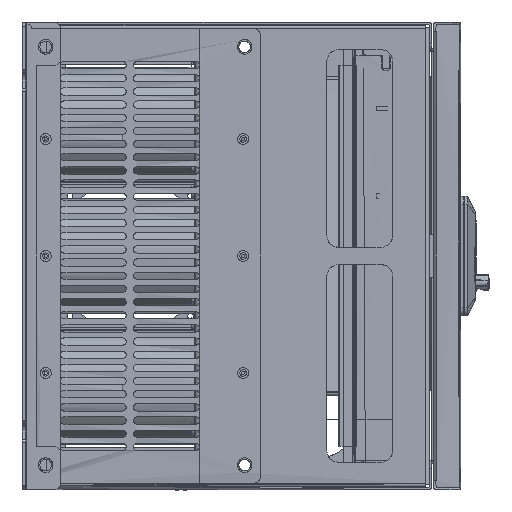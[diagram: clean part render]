
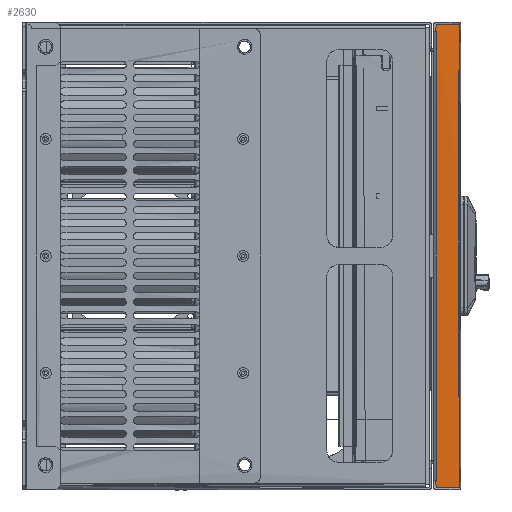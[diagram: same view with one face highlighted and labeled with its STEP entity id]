
A CAD part, front view. The second image highlights one B-rep face of the part: STEP entity #2630.
In plain terms, the highlighted planar face has unit normal (0, -1, 0).
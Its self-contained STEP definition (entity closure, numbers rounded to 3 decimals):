
#227 = CARTESIAN_POINT ( 'NONE',  ( 158., -291.2, -158.3 ) ) ;
#348 = CARTESIAN_POINT ( 'NONE',  ( 143.4, -291.2, 51.1 ) ) ;
#683 = VERTEX_POINT ( 'NONE', #12583 ) ;
#1040 = CARTESIAN_POINT ( 'NONE',  ( 143.2, -291.2, -153.3 ) ) ;
#1496 = ORIENTED_EDGE ( 'NONE', *, *, #131049, .T. ) ;
#1663 = CARTESIAN_POINT ( 'NONE',  ( 142.8, -291.2, -153.3 ) ) ;
#2140 = CARTESIAN_POINT ( 'NONE',  ( 142.606, -291.18, -153.649 ) ) ;
#2399 = CARTESIAN_POINT ( 'NONE',  ( 142.8, -291.2, -158.3 ) ) ;
#2630 = ADVANCED_FACE ( 'NONE', ( #88013 ), #63197, .T. ) ;
#4354 = VERTEX_POINT ( 'NONE', #140625 ) ;
#6026 = EDGE_CURVE ( 'NONE', #59364, #6629, #103118, .T. ) ;
#6629 = VERTEX_POINT ( 'NONE', #2140 ) ;
#8450 = ORIENTED_EDGE ( 'NONE', *, *, #48650, .F. ) ;
#11442 = CARTESIAN_POINT ( 'NONE',  ( 143., -291.2, 153.3 ) ) ;
#12168 = CARTESIAN_POINT ( 'NONE',  ( 143.4, -291.2, 153.3 ) ) ;
#12583 = CARTESIAN_POINT ( 'NONE',  ( 143.4, -291.2, 153.3 ) ) ;
#17996 = DIRECTION ( 'NONE',  ( 0., -1., 0. ) ) ;
#20319 = ORIENTED_EDGE ( 'NONE', *, *, #6026, .T. ) ;
#23582 = CARTESIAN_POINT ( 'NONE',  ( 143., -291.2, -153.3 ) ) ;
#24210 = CARTESIAN_POINT ( 'NONE',  ( 142.8, -291.2, -156.633 ) ) ;
#24374 = CARTESIAN_POINT ( 'NONE',  ( 143.4, -291.2, -51.1 ) ) ;
#25291 = ORIENTED_EDGE ( 'NONE', *, *, #115989, .F. ) ;
#26977 = CARTESIAN_POINT ( 'NONE',  ( 142.8, -291.2, 158.3 ) ) ;
#27760 = B_SPLINE_CURVE_WITH_KNOTS ( 'NONE', 3,
 ( #68713, #11442, #103232, #12168 ),
 .UNSPECIFIED., .F., .F.,
 ( 4, 4 ),
 ( 0., 1. ),
 .UNSPECIFIED. ) ;
#31409 = B_SPLINE_CURVE_WITH_KNOTS ( 'NONE', 3,
 ( #92872, #348, #24374, #83078 ),
 .UNSPECIFIED., .F., .F.,
 ( 4, 4 ),
 ( 0., 1. ),
 .UNSPECIFIED. ) ;
#34521 = CARTESIAN_POINT ( 'NONE',  ( 142.8, -291.2, 158.3 ) ) ;
#37086 = CARTESIAN_POINT ( 'NONE',  ( 142.8, -291.2, -154.967 ) ) ;
#39079 = CARTESIAN_POINT ( 'NONE',  ( 147.867, -291.2, 158.3 ) ) ;
#41438 = DIRECTION ( 'NONE',  ( 0., 0., -1. ) ) ;
#41893 = VERTEX_POINT ( 'NONE', #103318 ) ;
#44790 = EDGE_CURVE ( 'NONE', #683, #59364, #31409, .T. ) ;
#45899 = CARTESIAN_POINT ( 'NONE',  ( 142.8, -291.2, -158.3 ) ) ;
#47716 = CARTESIAN_POINT ( 'NONE',  ( 142.8, -291.2, -153.3 ) ) ;
#48650 = EDGE_CURVE ( 'NONE', #86752, #53260, #67543, .T. ) ;
#49443 = ORIENTED_EDGE ( 'NONE', *, *, #115046, .T. ) ;
#51825 = CARTESIAN_POINT ( 'NONE',  ( 158., -291.2, 158.3 ) ) ;
#53260 = VERTEX_POINT ( 'NONE', #62782 ) ;
#54644 = B_SPLINE_CURVE_WITH_KNOTS ( 'NONE', 3,
 ( #34521, #135251, #113371, #80389 ),
 .UNSPECIFIED., .F., .F.,
 ( 4, 4 ),
 ( 0., 1. ),
 .UNSPECIFIED. ) ;
#55699 = ORIENTED_EDGE ( 'NONE', *, *, #102182, .F. ) ;
#59364 = VERTEX_POINT ( 'NONE', #91321 ) ;
#62782 = CARTESIAN_POINT ( 'NONE',  ( 158.854, -290.437, 158.405 ) ) ;
#63110 = EDGE_CURVE ( 'NONE', #6629, #143879, #109680, .T. ) ;
#63197 = PLANE ( 'NONE',  #118410 ) ;
#67543 = B_SPLINE_CURVE_WITH_KNOTS ( 'NONE', 3,
 ( #26977, #39079, #132954, #51825 ),
 .UNSPECIFIED., .F., .F.,
 ( 4, 4 ),
 ( 0., 1. ),
 .UNSPECIFIED. ) ;
#68713 = CARTESIAN_POINT ( 'NONE',  ( 142.8, -291.2, 153.3 ) ) ;
#76212 = B_SPLINE_CURVE_WITH_KNOTS ( 'NONE', 3,
 ( #113780, #126576, #125811, #227 ),
 .UNSPECIFIED., .F., .F.,
 ( 4, 4 ),
 ( 0., 1. ),
 .UNSPECIFIED. ) ;
#80389 = CARTESIAN_POINT ( 'NONE',  ( 142.8, -291.2, 153.3 ) ) ;
#83078 = CARTESIAN_POINT ( 'NONE',  ( 143.4, -291.2, -153.3 ) ) ;
#85077 = ORIENTED_EDGE ( 'NONE', *, *, #44790, .T. ) ;
#86752 = VERTEX_POINT ( 'NONE', #118977 ) ;
#88013 = FACE_OUTER_BOUND ( 'NONE', #147611, .T. ) ;
#88741 = CARTESIAN_POINT ( 'NONE',  ( 158., -291.2, -158.3 ) ) ;
#91321 = CARTESIAN_POINT ( 'NONE',  ( 143.4, -291.2, -153.3 ) ) ;
#92872 = CARTESIAN_POINT ( 'NONE',  ( 143.4, -291.2, 153.3 ) ) ;
#100003 = CARTESIAN_POINT ( 'NONE',  ( 147.867, -291.2, -158.3 ) ) ;
#102182 = EDGE_CURVE ( 'NONE', #53260, #41893, #76212, .T. ) ;
#103118 = B_SPLINE_CURVE_WITH_KNOTS ( 'NONE', 3,
 ( #126631, #1040, #23582, #47716 ),
 .UNSPECIFIED., .F., .F.,
 ( 4, 4 ),
 ( 0., 1. ),
 .UNSPECIFIED. ) ;
#103232 = CARTESIAN_POINT ( 'NONE',  ( 143.2, -291.2, 153.3 ) ) ;
#103318 = CARTESIAN_POINT ( 'NONE',  ( 158.854, -290.437, -158.405 ) ) ;
#109680 = B_SPLINE_CURVE_WITH_KNOTS ( 'NONE', 3,
 ( #1663, #37086, #24210, #2399 ),
 .UNSPECIFIED., .F., .F.,
 ( 4, 4 ),
 ( 0., 1. ),
 .UNSPECIFIED. ) ;
#113371 = CARTESIAN_POINT ( 'NONE',  ( 142.8, -291.2, 154.967 ) ) ;
#113780 = CARTESIAN_POINT ( 'NONE',  ( 158., -291.2, 158.3 ) ) ;
#114746 = ORIENTED_EDGE ( 'NONE', *, *, #63110, .T. ) ;
#115046 = EDGE_CURVE ( 'NONE', #86752, #4354, #54644, .T. ) ;
#115989 = EDGE_CURVE ( 'NONE', #41893, #143879, #120035, .T. ) ;
#118410 = AXIS2_PLACEMENT_3D ( 'NONE', #121079, #17996, #41438 ) ;
#118977 = CARTESIAN_POINT ( 'NONE',  ( 143.044, -290.85, 158.463 ) ) ;
#120035 = B_SPLINE_CURVE_WITH_KNOTS ( 'NONE', 3,
 ( #88741, #126264, #100003, #45899 ),
 .UNSPECIFIED., .F., .F.,
 ( 4, 4 ),
 ( 0., 1. ),
 .UNSPECIFIED. ) ;
#121079 = CARTESIAN_POINT ( 'NONE',  ( 159.7, -291.2, 158.3 ) ) ;
#125811 = CARTESIAN_POINT ( 'NONE',  ( 158., -291.2, -52.767 ) ) ;
#126264 = CARTESIAN_POINT ( 'NONE',  ( 152.933, -291.2, -158.3 ) ) ;
#126576 = CARTESIAN_POINT ( 'NONE',  ( 158., -291.2, 52.767 ) ) ;
#126631 = CARTESIAN_POINT ( 'NONE',  ( 143.4, -291.2, -153.3 ) ) ;
#131049 = EDGE_CURVE ( 'NONE', #4354, #683, #27760, .T. ) ;
#132954 = CARTESIAN_POINT ( 'NONE',  ( 152.933, -291.2, 158.3 ) ) ;
#135251 = CARTESIAN_POINT ( 'NONE',  ( 142.8, -291.2, 156.633 ) ) ;
#140625 = CARTESIAN_POINT ( 'NONE',  ( 142.606, -291.18, 153.649 ) ) ;
#142936 = CARTESIAN_POINT ( 'NONE',  ( 143.044, -290.85, -158.463 ) ) ;
#143879 = VERTEX_POINT ( 'NONE', #142936 ) ;
#147611 = EDGE_LOOP ( 'NONE', ( #25291, #55699, #8450, #49443, #1496, #85077, #20319, #114746 ) ) ;
